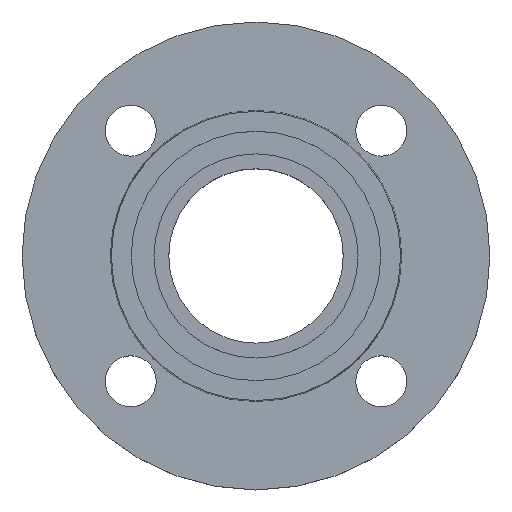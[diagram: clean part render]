
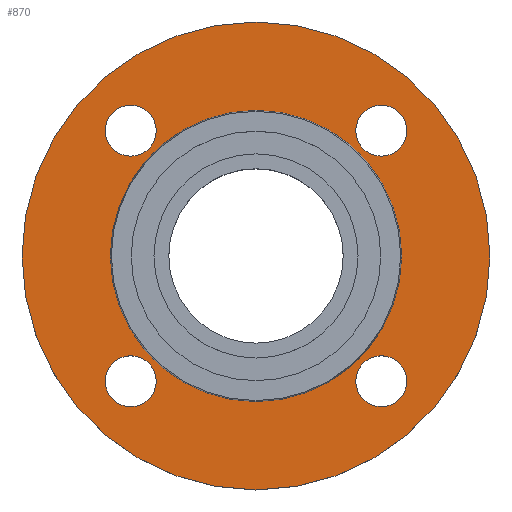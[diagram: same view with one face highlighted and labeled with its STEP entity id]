
A CAD part, top view. The second image highlights one B-rep face of the part: STEP entity #870.
In plain terms, the highlighted planar face has unit normal (0, 0, 1).
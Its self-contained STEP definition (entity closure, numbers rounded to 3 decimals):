
#2 = FACE_BOUND ( 'NONE', #684, .T. ) ;
#7 = FACE_BOUND ( 'NONE', #714, .T. ) ;
#8 = AXIS2_PLACEMENT_3D ( 'NONE', #845, #439, #438 ) ;
#11 = CARTESIAN_POINT ( 'NONE',  ( -53.194, -44.194, -2. ) ) ;
#32 = CIRCLE ( 'NONE', #422, 82.5 ) ;
#55 = CARTESIAN_POINT ( 'NONE',  ( 53.194, -44.194, -2. ) ) ;
#74 = EDGE_CURVE ( 'NONE', #669, #654, #357, .T. ) ;
#82 = CARTESIAN_POINT ( 'NONE',  ( -82.5, 0., -2. ) ) ;
#84 = CARTESIAN_POINT ( 'NONE',  ( 51.353, 0., -2. ) ) ;
#87 = EDGE_CURVE ( 'NONE', #705, #683, #570, .T. ) ;
#88 = CARTESIAN_POINT ( 'NONE',  ( -51.353, 0., -2. ) ) ;
#97 = FACE_BOUND ( 'NONE', #701, .T. ) ;
#99 = CARTESIAN_POINT ( 'NONE',  ( 82.5, 0., -2. ) ) ;
#100 = AXIS2_PLACEMENT_3D ( 'NONE', #200, #162, #164 ) ;
#117 = CARTESIAN_POINT ( 'NONE',  ( -35.194, -44.194, -2. ) ) ;
#118 = CARTESIAN_POINT ( 'NONE',  ( 53.194, 44.194, -2. ) ) ;
#130 = AXIS2_PLACEMENT_3D ( 'NONE', #469, #467, #466 ) ;
#132 = EDGE_CURVE ( 'NONE', #683, #705, #32, .T. ) ;
#151 = DIRECTION ( 'NONE',  ( 0., 0., -1. ) ) ;
#160 = AXIS2_PLACEMENT_3D ( 'NONE', #342, #343, #349 ) ;
#162 = DIRECTION ( 'NONE',  ( 0., 0., 1. ) ) ;
#164 = DIRECTION ( 'NONE',  ( 1., 0., 0. ) ) ;
#184 = DIRECTION ( 'NONE',  ( 1., 0., 0. ) ) ;
#187 = CIRCLE ( 'NONE', #482, 51.353 ) ;
#189 = CARTESIAN_POINT ( 'NONE',  ( 44.194, 44.194, -2. ) ) ;
#193 = EDGE_CURVE ( 'NONE', #702, #699, #187, .T. ) ;
#200 = CARTESIAN_POINT ( 'NONE',  ( 51.353, 0., -2. ) ) ;
#210 = PLANE ( 'NONE',  #100 ) ;
#211 = FACE_OUTER_BOUND ( 'NONE', #706, .T. ) ;
#214 = EDGE_CURVE ( 'NONE', #734, #383, #605, .T. ) ;
#220 = CARTESIAN_POINT ( 'NONE',  ( 44.194, -44.194, -2. ) ) ;
#222 = CIRCLE ( 'NONE', #160, 9. ) ;
#224 = DIRECTION ( 'NONE',  ( 0., 0., -1. ) ) ;
#225 = DIRECTION ( 'NONE',  ( 1., 0., 0. ) ) ;
#255 = EDGE_CURVE ( 'NONE', #389, #387, #584, .T. ) ;
#279 = EDGE_CURVE ( 'NONE', #383, #734, #371, .T. ) ;
#294 = CARTESIAN_POINT ( 'NONE',  ( 35.194, -44.194, -2. ) ) ;
#304 = CARTESIAN_POINT ( 'NONE',  ( -35.194, 44.194, -2. ) ) ;
#306 = CARTESIAN_POINT ( 'NONE',  ( -53.194, 44.194, -2. ) ) ;
#310 = CARTESIAN_POINT ( 'NONE',  ( -44.194, -44.194, -2. ) ) ;
#312 = DIRECTION ( 'NONE',  ( 0., 0., -1. ) ) ;
#313 = DIRECTION ( 'NONE',  ( 1., 0., 0. ) ) ;
#342 = CARTESIAN_POINT ( 'NONE',  ( -44.194, 44.194, -2. ) ) ;
#343 = DIRECTION ( 'NONE',  ( 0., 0., -1. ) ) ;
#349 = DIRECTION ( 'NONE',  ( 1., 0., 0. ) ) ;
#357 = CIRCLE ( 'NONE', #380, 9. ) ;
#363 = AXIS2_PLACEMENT_3D ( 'NONE', #220, #224, #225 ) ;
#368 = AXIS2_PLACEMENT_3D ( 'NONE', #791, #792, #793 ) ;
#371 = CIRCLE ( 'NONE', #363, 9. ) ;
#377 = CIRCLE ( 'NONE', #8, 51.353 ) ;
#380 = AXIS2_PLACEMENT_3D ( 'NONE', #788, #789, #790 ) ;
#383 = VERTEX_POINT ( 'NONE', #294 ) ;
#384 = CIRCLE ( 'NONE', #130, 9. ) ;
#387 = VERTEX_POINT ( 'NONE', #304 ) ;
#389 = VERTEX_POINT ( 'NONE', #306 ) ;
#398 = EDGE_CURVE ( 'NONE', #679, #670, #511, .T. ) ;
#418 = FACE_BOUND ( 'NONE', #717, .T. ) ;
#422 = AXIS2_PLACEMENT_3D ( 'NONE', #807, #808, #809 ) ;
#426 = AXIS2_PLACEMENT_3D ( 'NONE', #310, #312, #313 ) ;
#436 = CARTESIAN_POINT ( 'NONE',  ( 35.194, 44.194, -2. ) ) ;
#438 = DIRECTION ( 'NONE',  ( -1., 0., 0. ) ) ;
#439 = DIRECTION ( 'NONE',  ( 0., 0., -1. ) ) ;
#460 = EDGE_CURVE ( 'NONE', #387, #389, #222, .T. ) ;
#466 = DIRECTION ( 'NONE',  ( 1., 0., 0. ) ) ;
#467 = DIRECTION ( 'NONE',  ( 0., 0., -1. ) ) ;
#469 = CARTESIAN_POINT ( 'NONE',  ( -44.194, -44.194, -2. ) ) ;
#478 = EDGE_CURVE ( 'NONE', #654, #669, #573, .T. ) ;
#482 = AXIS2_PLACEMENT_3D ( 'NONE', #816, #817, #818 ) ;
#511 = CIRCLE ( 'NONE', #426, 9. ) ;
#523 = FACE_BOUND ( 'NONE', #711, .T. ) ;
#546 = ORIENTED_EDGE ( 'NONE', *, *, #214, .T. ) ;
#547 = ORIENTED_EDGE ( 'NONE', *, *, #279, .T. ) ;
#550 = ORIENTED_EDGE ( 'NONE', *, *, #610, .T. ) ;
#551 = ORIENTED_EDGE ( 'NONE', *, *, #398, .T. ) ;
#552 = ORIENTED_EDGE ( 'NONE', *, *, #460, .T. ) ;
#553 = ORIENTED_EDGE ( 'NONE', *, *, #255, .T. ) ;
#555 = ORIENTED_EDGE ( 'NONE', *, *, #74, .T. ) ;
#556 = ORIENTED_EDGE ( 'NONE', *, *, #478, .T. ) ;
#562 = AXIS2_PLACEMENT_3D ( 'NONE', #189, #151, #184 ) ;
#564 = ORIENTED_EDGE ( 'NONE', *, *, #650, .T. ) ;
#565 = ORIENTED_EDGE ( 'NONE', *, *, #193, .T. ) ;
#568 = ORIENTED_EDGE ( 'NONE', *, *, #132, .F. ) ;
#570 = CIRCLE ( 'NONE', #368, 82.5 ) ;
#572 = ORIENTED_EDGE ( 'NONE', *, *, #87, .F. ) ;
#573 = CIRCLE ( 'NONE', #562, 9. ) ;
#583 = AXIS2_PLACEMENT_3D ( 'NONE', #875, #876, #877 ) ;
#584 = CIRCLE ( 'NONE', #583, 9. ) ;
#593 = AXIS2_PLACEMENT_3D ( 'NONE', #847, #848, #849 ) ;
#605 = CIRCLE ( 'NONE', #593, 9. ) ;
#610 = EDGE_CURVE ( 'NONE', #670, #679, #384, .T. ) ;
#650 = EDGE_CURVE ( 'NONE', #699, #702, #377, .T. ) ;
#654 = VERTEX_POINT ( 'NONE', #436 ) ;
#669 = VERTEX_POINT ( 'NONE', #118 ) ;
#670 = VERTEX_POINT ( 'NONE', #117 ) ;
#679 = VERTEX_POINT ( 'NONE', #11 ) ;
#683 = VERTEX_POINT ( 'NONE', #99 ) ;
#684 = EDGE_LOOP ( 'NONE', ( #546, #547 ) ) ;
#699 = VERTEX_POINT ( 'NONE', #88 ) ;
#701 = EDGE_LOOP ( 'NONE', ( #564, #565 ) ) ;
#702 = VERTEX_POINT ( 'NONE', #84 ) ;
#705 = VERTEX_POINT ( 'NONE', #82 ) ;
#706 = EDGE_LOOP ( 'NONE', ( #568, #572 ) ) ;
#711 = EDGE_LOOP ( 'NONE', ( #555, #556 ) ) ;
#714 = EDGE_LOOP ( 'NONE', ( #552, #553 ) ) ;
#717 = EDGE_LOOP ( 'NONE', ( #550, #551 ) ) ;
#734 = VERTEX_POINT ( 'NONE', #55 ) ;
#788 = CARTESIAN_POINT ( 'NONE',  ( 44.194, 44.194, -2. ) ) ;
#789 = DIRECTION ( 'NONE',  ( 0., 0., -1. ) ) ;
#790 = DIRECTION ( 'NONE',  ( 1., 0., 0. ) ) ;
#791 = CARTESIAN_POINT ( 'NONE',  ( 0., 0., -2. ) ) ;
#792 = DIRECTION ( 'NONE',  ( 0., 0., -1. ) ) ;
#793 = DIRECTION ( 'NONE',  ( -1., 0., 0. ) ) ;
#807 = CARTESIAN_POINT ( 'NONE',  ( 0., 0., -2. ) ) ;
#808 = DIRECTION ( 'NONE',  ( 0., 0., -1. ) ) ;
#809 = DIRECTION ( 'NONE',  ( -1., 0., 0. ) ) ;
#816 = CARTESIAN_POINT ( 'NONE',  ( 0., 0., -2. ) ) ;
#817 = DIRECTION ( 'NONE',  ( 0., 0., -1. ) ) ;
#818 = DIRECTION ( 'NONE',  ( -1., 0., 0. ) ) ;
#845 = CARTESIAN_POINT ( 'NONE',  ( 0., 0., -2. ) ) ;
#847 = CARTESIAN_POINT ( 'NONE',  ( 44.194, -44.194, -2. ) ) ;
#848 = DIRECTION ( 'NONE',  ( 0., 0., -1. ) ) ;
#849 = DIRECTION ( 'NONE',  ( 1., 0., 0. ) ) ;
#870 = ADVANCED_FACE ( 'NONE', ( #2, #418, #7, #523, #97, #211 ), #210, .T. ) ;
#875 = CARTESIAN_POINT ( 'NONE',  ( -44.194, 44.194, -2. ) ) ;
#876 = DIRECTION ( 'NONE',  ( 0., 0., -1. ) ) ;
#877 = DIRECTION ( 'NONE',  ( 1., 0., 0. ) ) ;
